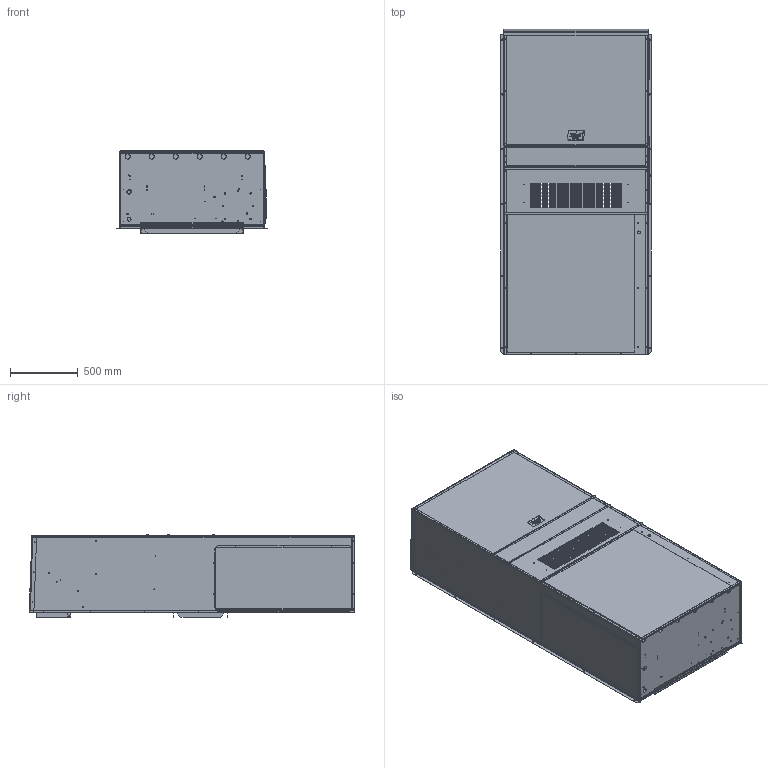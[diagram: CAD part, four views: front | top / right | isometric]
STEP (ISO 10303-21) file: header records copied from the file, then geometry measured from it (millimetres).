
FILE_DESCRIPTION (( 'STEP AP203' ), '1' );
FILE_NAME ('STEP_1400_trial.STEP', '2016-06-29T13:20:49', ( 'BMC' ), ( 'Bard Manufacturing Co., Inc.' ), 'SwSTEP 2.0', 'SolidWorks 2016', '' );
FILE_SCHEMA (( 'CONFIG_CONTROL_DESIGN' ));
Length unit declared in the file: inch
Products named in the file (1): STEP_1400_trial
Bounding box: 1113.88 x 2411.7 x 612.03 mm (x, y, z)
Surface area: 19307766.7 mm2 (no closed solid volume)
Topology: 0 solids, 47 shells, 3042 faces, 8418 edges, 5513 vertices
Faces by surface type: plane 1604, cylinder 1016, torus 252, bspline 144, sphere 18, cone 8
Entity records: 114421 total; most frequent: CARTESIAN_POINT 34081, ORIENTED_EDGE 16814, DIRECTION 16310, EDGE_CURVE 8409, AXIS2_PLACEMENT_3D 5581, VERTEX_POINT 5512, LINE 5148, VECTOR 5148
